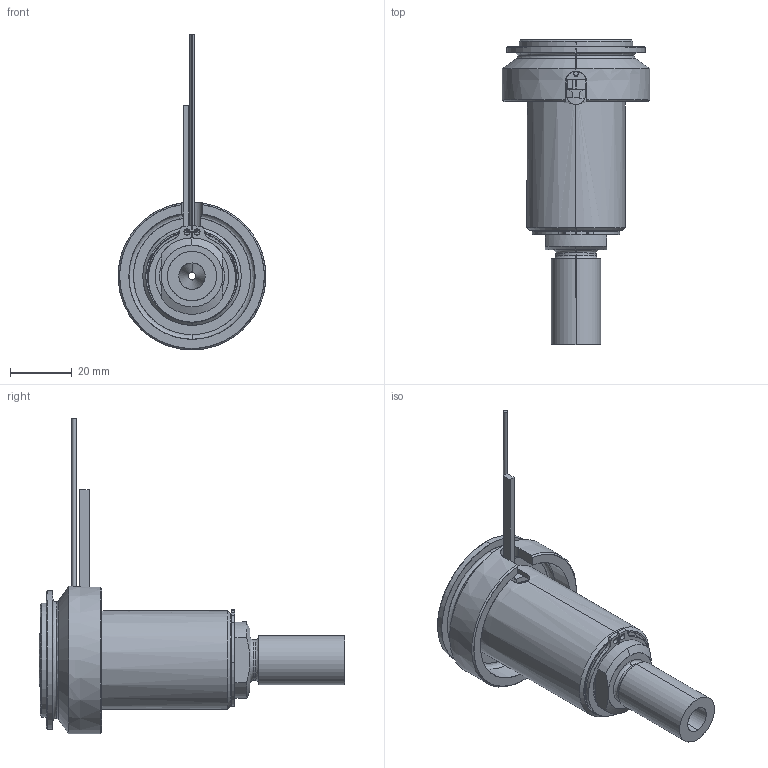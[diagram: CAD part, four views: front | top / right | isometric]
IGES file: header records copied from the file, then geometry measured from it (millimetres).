
Start section: SolidWorks IGES file using analytic representation for surfaces
Global section: file name: C:\Documents and Settings\ws-20\Desktop\TEMPORANEA\UGBE5001-M-A-P-5 [Ød-2.5 P-25 ØC-13].IGS; native system: SolidWorks 2012; preprocessor: SolidWorks 2012; author: ws-20; date: 120306.161420; units: millimetre
Bounding box: 48 x 99.25 x 102.65 mm (x, y, z)
Surface area: 31280.8 mm2 (no closed solid volume)
Topology: 0 solids, 0 shells, 110 faces, 2104 edges, 2104 vertices
Faces by surface type: revolution 61, bspline 49
